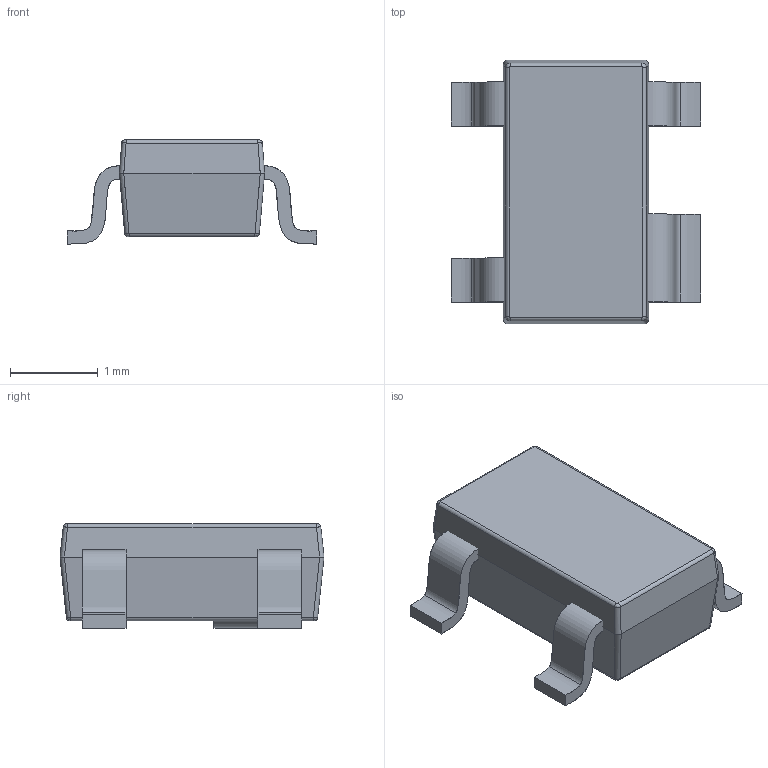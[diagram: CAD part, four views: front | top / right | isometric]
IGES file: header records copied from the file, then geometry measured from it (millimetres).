
Global section: file name: C:\Users\Mart\Documents\Libraries\3D Componenten\sot\SOT23-4.igs; native system: Rhinoceros ( Oct 24 2012 ); preprocessor: Trout Lake IGES 012 Oct 24 2012; author: MB2015; date: 151020.184318; units: millimetre
Bounding box: 2.84 x 3 x 1.18 mm (x, y, z)
Surface area: 26.8 mm2 (no closed solid volume)
Topology: 0 solids, 0 shells, 62 faces, 472 edges, 472 vertices
Faces by surface type: bspline 62
